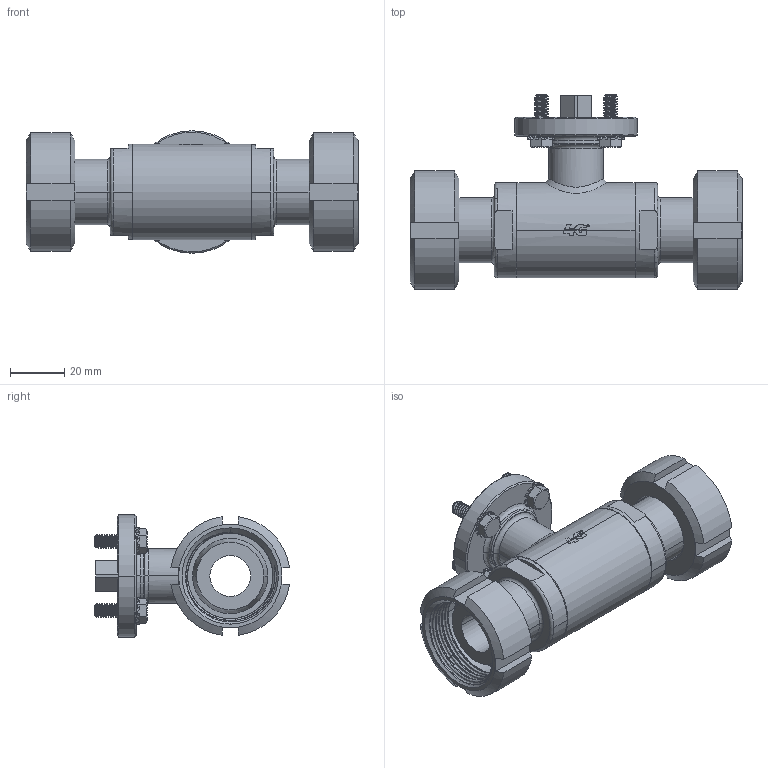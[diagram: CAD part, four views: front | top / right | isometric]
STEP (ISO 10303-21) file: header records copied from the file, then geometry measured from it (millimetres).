
FILE_DESCRIPTION((''),'2;1');
FILE_NAME('10302761410','2025-06-04T09:50:45',('alfio.taboni'),('CDM Tecnoconsulting'),'CREO PARAMETRIC BY PTC INC, 2024063','CREO PARAMETRIC BY PTC INC, 2024063','');
FILE_SCHEMA(('CONFIG_CONTROL_DESIGN','SHAPE_APPEARANCE_LAYERS_GROUPS'));
Products named in the file (1): 10302761410
Bounding box: 122 x 71.69 x 45 mm (x, y, z)
Volume: 96435.2 mm3; surface area: 46211 mm2
Topology: 1 solids, 1 shells, 1332 faces, 3865 edges, 2469 vertices
Faces by surface type: plane 481, cylinder 373, cone 208, bspline 122, torus 88, extrusion 56, sphere 4
Entity records: 105970 total; most frequent: CARTESIAN_POINT 52042, ORIENTED_EDGE 7714, DIRECTION 5814, PRESENTATION_STYLE_ASSIGNMENT 5232, STYLED_ITEM 3914, CURVE_STYLE 3913, EDGE_CURVE 3857, VERTEX_POINT 2469
